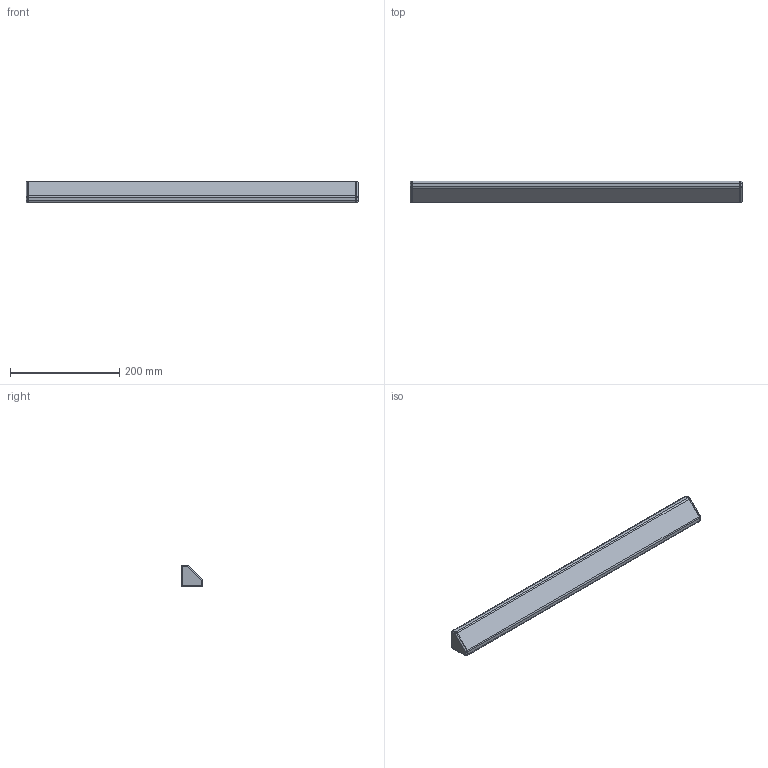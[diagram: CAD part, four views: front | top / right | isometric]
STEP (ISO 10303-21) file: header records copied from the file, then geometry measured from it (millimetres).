
FILE_DESCRIPTION(/* description */ (''),/* implementation_level */ '2;1');
FILE_NAME(/* name */ 'LA-6007-2060-A.stp',/* time_stamp */ '2015-01-28T11:28:47+00:00',/* author */ (''),/* organization */ (''),/* preprocessor_version */ 'ST-DEVELOPER v11',/* originating_system */ 'SIEMENS PLM Software NX 7.5',/* authorisation */ '');
FILE_SCHEMA (('AUTOMOTIVE_DESIGN { 1 0 10303 214 1 1 1 1 }'));
Length unit declared in the file: millimetre
Products named in the file (1): rt13982Avlbx
Bounding box: 608 x 40 x 40 mm (x, y, z)
Volume: 721872.7 mm3; surface area: 85903.1 mm2
Topology: 1 solids, 1 shells, 56 faces, 122 edges, 68 vertices
Faces by surface type: plane 19, cylinder 15, bspline 12, cone 10
Entity records: 1964 total; most frequent: CARTESIAN_POINT 439, DIRECTION 256, ORIENTED_EDGE 244, EDGE_CURVE 122, AXIS2_PLACEMENT_3D 95, VERTEX_POINT 68, LINE 66, VECTOR 66
